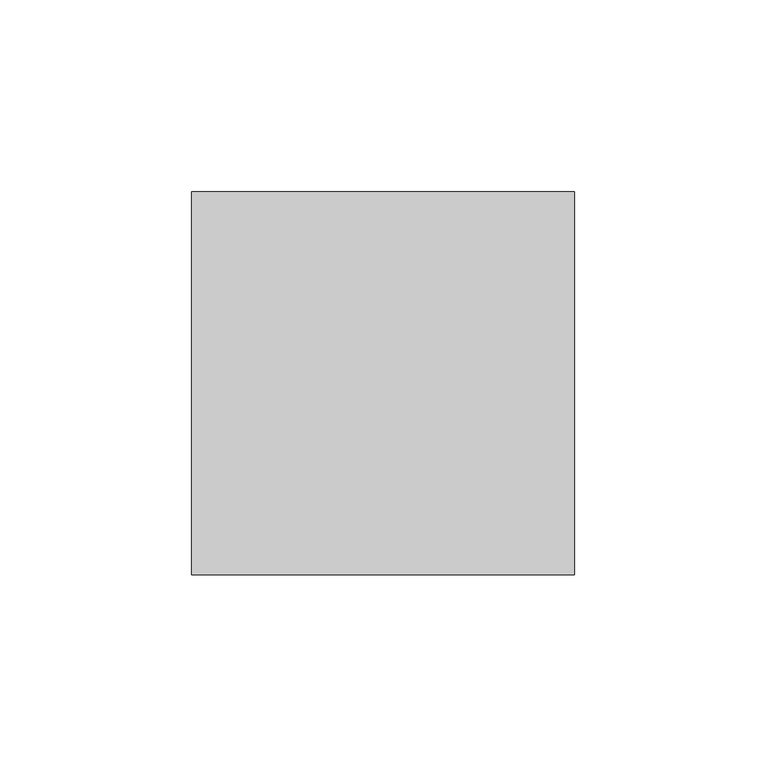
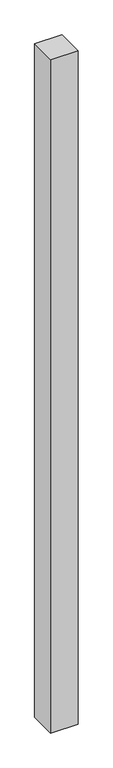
"""IFC4 building model written with IfcOpenShell, lengths in millimetres: member geometry, Montante angular cuadrilátero : Montante cuadrilátero 1."""

from ifc_helpers import new_model, si_unit, frame, origin, place, context, project, spatial, polyline, outline, extrude, source, transform, mapped, element, save


def member_dd67d066(model_context):
    return source(origin(), model_context, "Body", "SweptSolid", [
        extrude(outline(polyline([(50.0, -50.0), (-50.0, -50.0), (-50.0, 50.0), (50.0, 50.0), (50.0, -50.0)])), frame((0.0, 0.0, -2600.0), z_axis=(0.0, 0.0, 1.0), x_axis=(1.0, 0.0, 0.0)), (0.0, 0.0, 1.0), 2600.0),
    ])


if __name__ == "__main__":
    model = new_model("IFC4")
    model_context = context("Model", 3, world=origin())
    ifc_project = project(units=[si_unit("LENGTHUNIT", "METRE", prefix="MILLI")], contexts=[model_context])
    site = spatial("IfcSite", under=ifc_project)
    building = spatial("IfcBuilding", under=site)
    placement = place(None, origin())
    member_shape = member_dd67d066(model_context)
    element("IfcMember", 1, ObjectType="Montante angular cuadrilátero : Montante cuadrilátero 1", at=placement, inside=building, context=model_context, shape_type="MappedRepresentation", body=[
        mapped(member_shape, transform((0.0, 0.0, 0.0), x_axis=(1.0, 0.0, 0.0), y_axis=(0.0, 1.0, 0.0), z_axis=(0.0, 0.0, 1.0))),
    ])
    save(model, "model.ifc")
